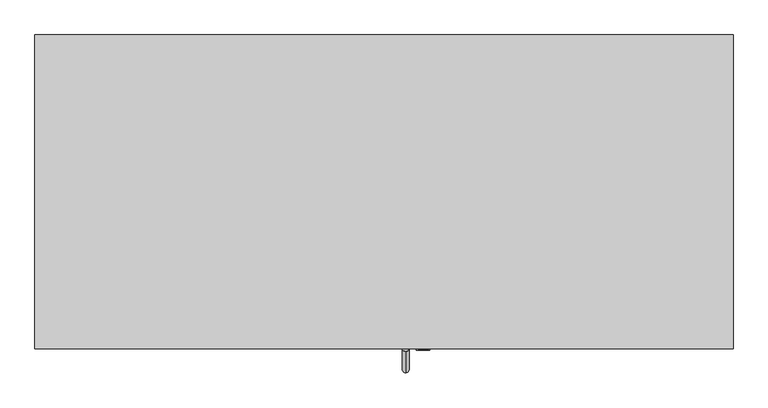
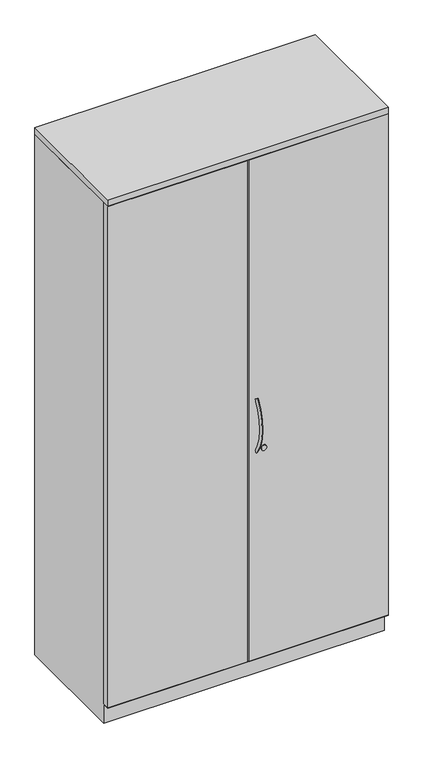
"""IFC4 building model written with IfcOpenShell, lengths in millimetres: furniture geometry, Steelcase - Universal Storage - Cabinet - Storage - 66H-84H - Proud Steel : 84H x 18D x 42W."""

from ifc_helpers import new_model, si_unit, point, frame, frame_2d, origin, place, context, project, spatial, polyline, circle_curve, ellipse_curve, trimmed, segment, composite_curve, outline, extrude, faceted_brep, source, transform, mapped, element, save
from ifc_brep_helpers import plane_surface, revolved_surface, advanced_brep


def furniture_a60df7db(model_context):
    return source(origin(), model_context, "Body", "SolidModel", [
        extrude(outline(polyline([(1066.8, 0.0), (1066.8, -479.552), (0.0, -479.552), (0.0, 0.0), (1066.8, 0.0)])), frame((0.0, 0.0, 2095.5), z_axis=(0.0, 0.0, 1.0), x_axis=(1.0, 0.0, 0.0)), (0.0, 0.0, 1.0), 25.4),
        extrude(outline(polyline([(0.0, -479.552), (0.0, -454.1528418), (530.86, -454.1528418), (530.86, -479.552), (0.0, -479.552)])), frame((0.0, 0.0, 77.724), z_axis=(0.0, 0.0, 1.0), x_axis=(1.0, 0.0, 0.0)), (0.0, 0.0, 1.0), 2016.252),
        extrude(outline(polyline([(1066.8, -454.1528418), (1066.8, -479.552), (535.94, -479.552), (535.94, -454.1528418), (1066.8, -454.1528418)])), frame((0.0, 0.0, 77.724), z_axis=(0.0, 0.0, 1.0), x_axis=(1.0, 0.0, 0.0)), (0.0, 0.0, 1.0), 2016.252),
        extrude(outline(composite_curve([segment(trimmed(circle_curve(frame_2d((917.702, 592.9418131)), 10.16), [point((917.702, 603.1018131))], [point((917.702, 582.7818131))], False, "CARTESIAN"), True, "CONTINUOUS"), segment(trimmed(circle_curve(frame_2d((917.702, 592.9418131)), 10.16), [point((917.702, 582.7818131))], [point((917.702, 603.1018131))], False, "CARTESIAN"), True, "CONTINUOUS")], self_intersect=False)), frame((0.0, -481.965031, 0.0), z_axis=(0.0, 1.0, 0.0), x_axis=(0.0, 0.0, 1.0)), (0.0, 0.0, 1.0), 2.413031),
        advanced_brep(
        [(566.4783765, -474.9744318, 1119.7196018), (566.4783765, -483.5741633, 1125.3900503), (566.4783765, -472.5471581, 911.9931915), (566.4783765, -481.0120418, 906.1233437)],
        [
            (0, 1, circle_curve(frame((566.4783765, -479.2742976, 1122.5548261), z_axis=(0.0, 0.5504787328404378, 0.83484918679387), x_axis=(0.0, -0.83484918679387, 0.5504787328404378)), 5.1504701)),
            (1, 0, circle_curve(frame((566.4783765, -479.2742976, 1122.5548261), z_axis=(0.0, 0.5504787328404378, 0.83484918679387), x_axis=(0.0, -0.83484918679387, 0.5504787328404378)), 5.1504701)),
            (2, 3, circle_curve(frame((566.4783765, -476.7796, 909.0582676), z_axis=(0.0, 0.5698361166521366, -0.8217583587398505), x_axis=(0.0, -0.8217583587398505, -0.5698361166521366)), 5.1504701)),
            (3, 2, circle_curve(frame((566.4783765, -476.7796, 909.0582676), z_axis=(0.0, 0.5698361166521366, -0.8217583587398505), x_axis=(0.0, -0.8217583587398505, -0.5698361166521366)), 5.1504701)),
            (3, 1, circle_curve(frame((566.4783765, -320.178461, 1017.6509992), z_axis=(-1.0, 0.0, 0.0), x_axis=(0.0, -0.83484918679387, 0.5504787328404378)), 195.7188256)),
            (0, 2, circle_curve(frame((566.4783765, -320.178461, 1017.6509992), z_axis=(1.0, 0.0, 0.0), x_axis=(0.0, -0.83484918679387, 0.5504787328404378)), 185.4178854)),
        ],
        [
            plane_surface(frame((566.4783765, -479.2742976, 1122.5548261), z_axis=(0.0, 0.5504787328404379, 0.83484918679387), x_axis=(-1.0, 0.0, 0.0))),
            plane_surface(frame((566.4783765, -476.7796, 909.0582676), z_axis=(0.0, 0.5698361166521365, -0.8217583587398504), x_axis=(-1.0, 0.0, 0.0))),
            revolved_surface(trimmed(ellipse_curve(frame((566.4783765, -479.2742976, 1122.5548261), z_axis=(0.0, 0.5504787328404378, 0.83484918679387), x_axis=(0.0, -0.83484918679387, 0.5504787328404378)), 5.1504701, 5.1504701), [point((566.4783765, -474.9744318, 1119.7196018))], [point((566.4783765, -483.5741633, 1125.3900503))], True, "CARTESIAN"), (566.4783765, -320.178461, 1017.6509992), (1.0, 0.0, 0.0)),
            revolved_surface(trimmed(ellipse_curve(frame((566.4783765, -479.2742976, 1122.5548261), z_axis=(0.0, 0.5504787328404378, 0.83484918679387), x_axis=(0.0, -0.83484918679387, 0.5504787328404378)), 5.1504701, 5.1504701), [point((566.4783765, -483.5741633, 1125.3900503))], [point((566.4783765, -474.9744318, 1119.7196018))], True, "CARTESIAN"), (566.4783765, -320.178461, 1017.6509992), (1.0, 0.0, 0.0)),
        ],
        [
            (0, [[1, 2]]),
            (1, [[3, 4]]),
            (2, [[5, -1, 6, -4]]),
            (3, [[-6, -2, -5, -3]]),
        ],
    ),
        extrude(outline(composite_curve([segment(trimmed(circle_curve(frame_2d((919.3669832, 593.2109835)), 9.7167829), [point((919.3669832, 602.9277664))], [point((919.3669832, 583.4942006))], False, "CARTESIAN"), True, "CONTINUOUS"), segment(trimmed(circle_curve(frame_2d((919.3669832, 593.2109835)), 9.7167829), [point((919.3669832, 583.4942006))], [point((919.3669832, 602.9277664))], False, "CARTESIAN"), True, "CONTINUOUS")], self_intersect=False)), frame((0.0, -480.2215275, 0.0), z_axis=(0.0, 1.0, 0.0), x_axis=(0.0, 0.0, 1.0)), (0.0, 0.0, 1.0), 0.6695275),
        faceted_brep([(1066.8, 0.0, 0.0), (1066.8, -452.6288432, 0.0), (0.0, -452.6288432, 0.0), (0.0, 0.0, 0.0), (0.0, 0.0, 2093.976), (1066.8, 0.0, 2093.976), (0.0, -452.6288432, 76.2), (0.0, -479.552, 76.2), (0.0, -479.552, 77.724), (0.0, -452.6288432, 77.724), (0.0, -452.6288432, 2093.976), (1066.8, -452.6288432, 76.2), (1066.8, -452.6288432, 2093.976), (1066.8, -452.6288432, 77.724), (1066.8, -479.4258418, 77.724), (1066.8, -479.552, 76.2), (1041.4000242, -25.4000008, 2093.976), (1041.4000242, -452.6288432, 2093.976), (25.3999758, -452.6288432, 2093.976), (25.3999758, -25.4000008, 2093.976), (1041.4000242, -25.4000008, 77.724), (1041.4000242, -452.6288432, 77.724), (25.3999758, -452.6288432, 77.724), (25.3999758, -25.4000008, 77.724), (4.6981334, -454.1528418, 77.724), (1041.4000242, -454.1528418, 77.724)], [[[0, 1, 2, 3]], [[0, 3, 4, 5]], [[4, 3, 2, 6, 7, 8, 9, 10]], [[2, 1, 11, 6]], [[1, 0, 5, 12, 13, 14, 15, 11]], [[16, 17, 12, 5, 4, 10, 18, 19]], [[17, 16, 20, 21]], [[12, 17, 21, 13]], [[18, 10, 9, 22]], [[19, 18, 22, 23]], [[16, 19, 23, 20]], [[8, 24, 25, 14, 13, 21, 20, 23, 22, 9]], [[15, 7, 6, 11]], [[24, 8, 7]], [[25, 24, 7, 15]], [[14, 25, 15]]]),
    ])


if __name__ == "__main__":
    model = new_model("IFC4")
    model_context = context("Model", 3, world=origin())
    ifc_project = project(units=[si_unit("LENGTHUNIT", "METRE", prefix="MILLI")], contexts=[model_context])
    site = spatial("IfcSite", under=ifc_project)
    building = spatial("IfcBuilding", under=site)
    placement = place(None, origin())
    furniture_shape = furniture_a60df7db(model_context)
    element("IfcFurniture", 1, ObjectType="Steelcase - Universal Storage - Cabinet - Storage - 66H-84H - Proud Steel : 84H x 18D x 42W", at=placement, inside=building, context=model_context, shape_type="MappedRepresentation", body=[
        mapped(furniture_shape, transform((0.0, 0.0, 0.0), x_axis=(1.0, 0.0, 0.0), y_axis=(0.0, 1.0, 0.0), z_axis=(0.0, 0.0, 1.0))),
    ])
    save(model, "model.ifc")
